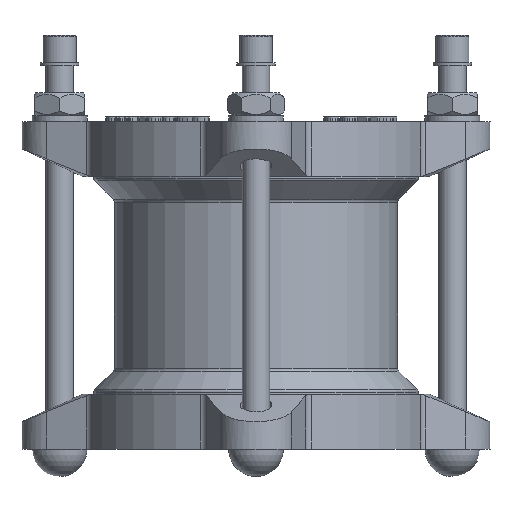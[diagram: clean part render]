
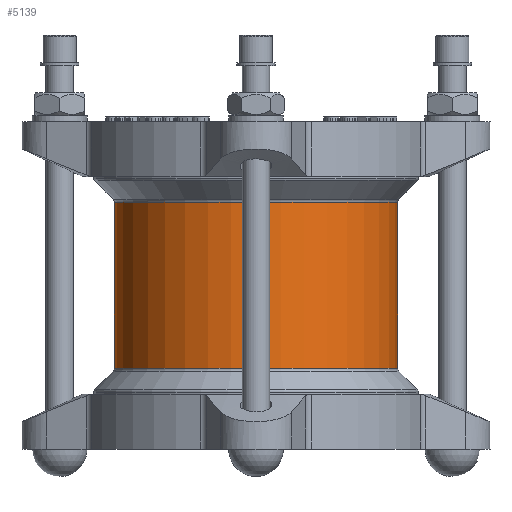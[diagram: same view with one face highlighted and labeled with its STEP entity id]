
A CAD part, front view. The second image highlights one B-rep face of the part: STEP entity #5139.
In plain terms, the highlighted cylindrical face has radius 62 mm (diameter 124 mm), a full revolution.
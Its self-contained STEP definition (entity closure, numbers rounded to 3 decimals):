
#5139=ADVANCED_FACE('',(#9537,#9539),#9541,.T.);
#9537=FACE_OUTER_BOUND('',#9538,.T.);
#9538=EDGE_LOOP('',(#14267));
#9539=FACE_OUTER_BOUND('',#9540,.T.);
#9540=EDGE_LOOP('',(#14268));
#9541=CYLINDRICAL_SURFACE('',#9542,62.);
#9542=AXIS2_PLACEMENT_3D('',#9543,#9544,#9545);
#9543=CARTESIAN_POINT('',(0.,0.,37.172));
#9544=DIRECTION('',(0.,0.,-1.));
#9545=DIRECTION('',(0.,1.,0.));
#14267=ORIENTED_EDGE('',*,*,#16285,.T.);
#14268=ORIENTED_EDGE('',*,*,#16286,.F.);
#16285=EDGE_CURVE('',#18997,#18997,#18998,.T.);
#16286=EDGE_CURVE('',#18999,#18999,#19000,.T.);
#18997=VERTEX_POINT('',#27322);
#18998=CIRCLE('',#27323,62.);
#18999=VERTEX_POINT('',#27327);
#19000=CIRCLE('',#27328,62.);
#27322=CARTESIAN_POINT('',(0.,62.,36.343));
#27323=AXIS2_PLACEMENT_3D('',#27324,#27325,#27326);
#27324=CARTESIAN_POINT('',(0.,0.,36.343));
#27325=DIRECTION('',(0.,0.,-1.));
#27326=DIRECTION('',(0.,1.,0.));
#27327=CARTESIAN_POINT('',(0.,62.,-36.343));
#27328=AXIS2_PLACEMENT_3D('',#27329,#27330,#27331);
#27329=CARTESIAN_POINT('',(0.,0.,-36.343));
#27330=DIRECTION('',(0.,0.,-1.));
#27331=DIRECTION('',(0.,1.,0.));
